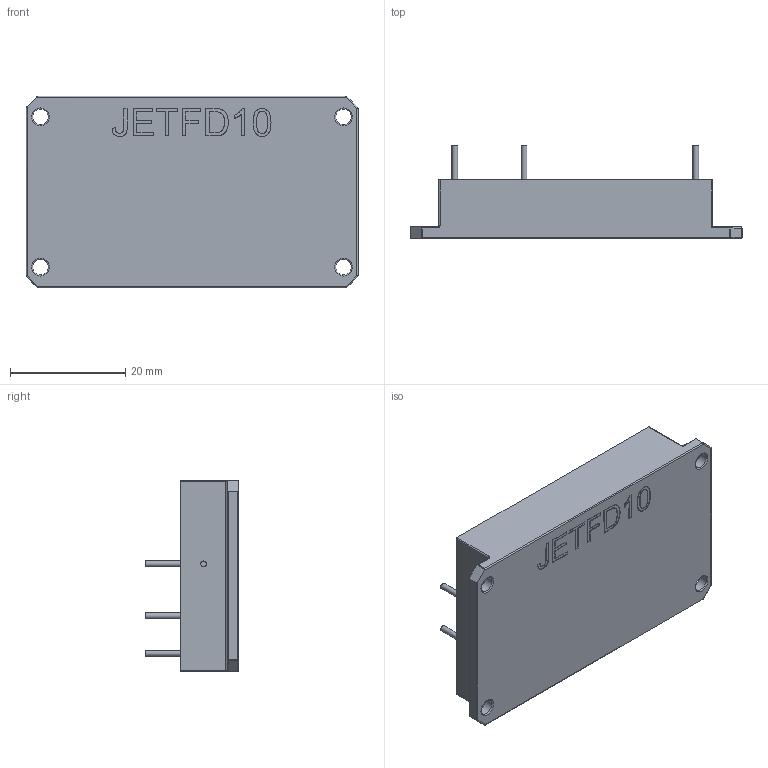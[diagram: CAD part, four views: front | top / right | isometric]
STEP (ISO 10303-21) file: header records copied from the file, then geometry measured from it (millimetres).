
FILE_DESCRIPTION(('STEP AP214'), '1');
FILE_NAME('JETFD10_flange', '', ('UNSPECIFIED'), ('UNSPECIFIED'), 'ASCON STEP Converter 1.3', 'ASCON Math Kernel', '');
FILE_SCHEMA(('AUTOMOTIVE_DESIGN { 1 0 10303 214 3 1 1}'));
Length unit declared in the file: millimetre
Products named in the file (1): JETDF10_flange
Bounding box: 57.5 x 16.15 x 33.2 mm (x, y, z)
Volume: 15875.9 mm3; surface area: 5648.4 mm2
Topology: 1 solids, 1 shells, 287 faces, 770 edges, 490 vertices
Faces by surface type: cylinder 184, plane 80, torus 12, sphere 11
Full cylindrical faces by diameter (mm): 1 x6, 2.7 x4
Entity records: 11276 total; most frequent: DIRECTION 1680, CARTESIAN_POINT 1554, ORIENTED_EDGE 1482, EDGE_CURVE 741, AXIS2_PLACEMENT_3D 660, VERTEX_POINT 490, CIRCLE 372, LINE 360
